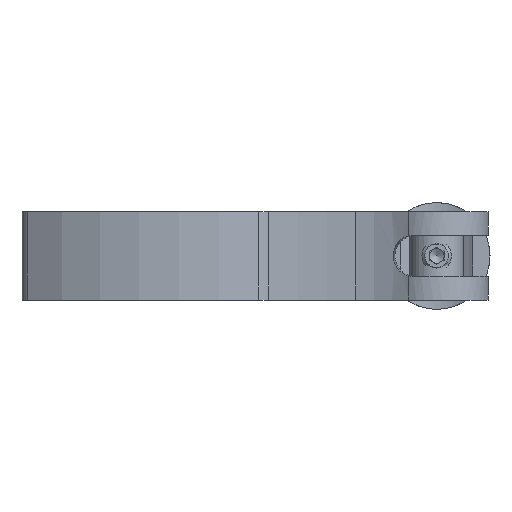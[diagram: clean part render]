
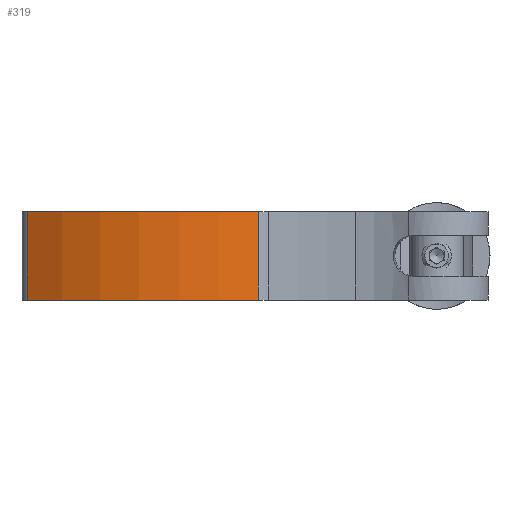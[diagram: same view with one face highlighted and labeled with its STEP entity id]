
A CAD part, top view. The second image highlights one B-rep face of the part: STEP entity #319.
In plain terms, the highlighted cylindrical face has radius 45.662 mm (diameter 91.324 mm), a partial arc.
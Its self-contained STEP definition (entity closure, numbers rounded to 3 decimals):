
#319=ADVANCED_FACE('',(#587),#589,.T.);
#587=FACE_BOUND('',#588,.T.);
#588=EDGE_LOOP('',(#886,#887,#888,#889));
#589=CYLINDRICAL_SURFACE('',#590,45.662);
#590=AXIS2_PLACEMENT_3D('',#591,#592,#593);
#591=CARTESIAN_POINT('',(-44.497,-15.,-39.353));
#592=DIRECTION('',(0.,1.,0.));
#593=DIRECTION('',(-0.546,0.,0.838));
#886=ORIENTED_EDGE('',*,*,#1034,.T.);
#887=ORIENTED_EDGE('',*,*,#1047,.T.);
#888=ORIENTED_EDGE('',*,*,#1024,.F.);
#889=ORIENTED_EDGE('',*,*,#1046,.F.);
#1024=EDGE_CURVE('',#1181,#1183,#1184,.T.);
#1034=EDGE_CURVE('',#1200,#1198,#1201,.T.);
#1046=EDGE_CURVE('',#1200,#1181,#1217,.T.);
#1047=EDGE_CURVE('',#1198,#1183,#1218,.T.);
#1181=VERTEX_POINT('',#2138);
#1183=VERTEX_POINT('',#2143);
#1184=CIRCLE('',#2144,45.662);
#1198=VERTEX_POINT('',#2184);
#1200=VERTEX_POINT('',#2189);
#1201=CIRCLE('',#2190,45.662);
#1217=LINE('',#2235,#2236);
#1218=LINE('',#2238,#2239);
#2138=CARTESIAN_POINT('',(-69.421,0.,-1.093));
#2143=CARTESIAN_POINT('',(-30.13,0.,3.99));
#2144=AXIS2_PLACEMENT_3D('',#2145,#2146,#2147);
#2145=CARTESIAN_POINT('',(-44.497,0.,-39.353));
#2146=DIRECTION('',(0.,1.,0.));
#2147=DIRECTION('',(-0.546,0.,0.838));
#2184=CARTESIAN_POINT('',(-30.13,-15.,3.99));
#2189=CARTESIAN_POINT('',(-69.421,-15.,-1.093));
#2190=AXIS2_PLACEMENT_3D('',#2191,#2192,#2193);
#2191=CARTESIAN_POINT('',(-44.497,-15.,-39.353));
#2192=DIRECTION('',(0.,1.,0.));
#2193=DIRECTION('',(-0.546,0.,0.838));
#2235=CARTESIAN_POINT('',(-69.421,-15.,-1.093));
#2236=VECTOR('',#2237,1.);
#2237=DIRECTION('',(0.,1.,0.));
#2238=CARTESIAN_POINT('',(-30.13,-15.,3.99));
#2239=VECTOR('',#2240,1.);
#2240=DIRECTION('',(0.,1.,0.));
